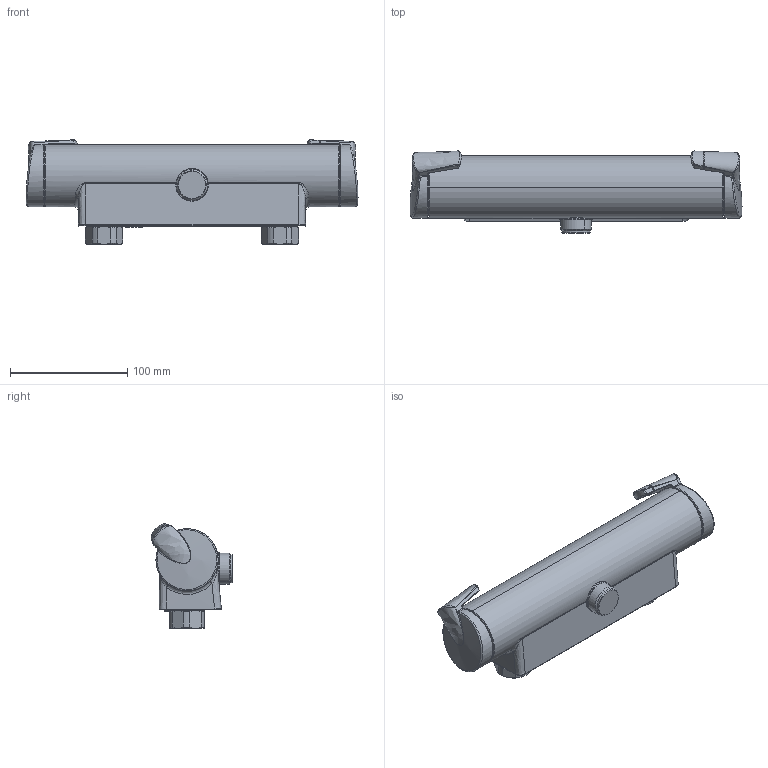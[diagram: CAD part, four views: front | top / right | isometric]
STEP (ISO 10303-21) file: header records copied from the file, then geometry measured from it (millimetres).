
FILE_DESCRIPTION (( 'STEP AP203' ), '1' );
FILE_NAME ('7161(2013).STEP', '2019-02-25T10:28:36', ( '' ), ( '' ), 'SwSTEP 2.0', 'SolidWorks 2016', '' );
FILE_SCHEMA (( 'CONFIG_CONTROL_DESIGN' ));
Length unit declared in the file: millimetre
Products named in the file (1): 7161(2013)
Bounding box: 283.12 x 69.92 x 89.09 mm (x, y, z)
Volume: 904385.6 mm3; surface area: 93872.4 mm2
Topology: 11 solids, 11 shells, 320 faces, 742 edges, 449 vertices
Faces by surface type: bspline 124, cylinder 76, plane 57, cone 40, torus 13, sphere 10
Entity records: 18085 total; most frequent: CARTESIAN_POINT 11768, ORIENTED_EDGE 1466, DIRECTION 1063, EDGE_CURVE 733, AXIS2_PLACEMENT_3D 460, VERTEX_POINT 445, EDGE_LOOP 330, FACE_OUTER_BOUND 320
